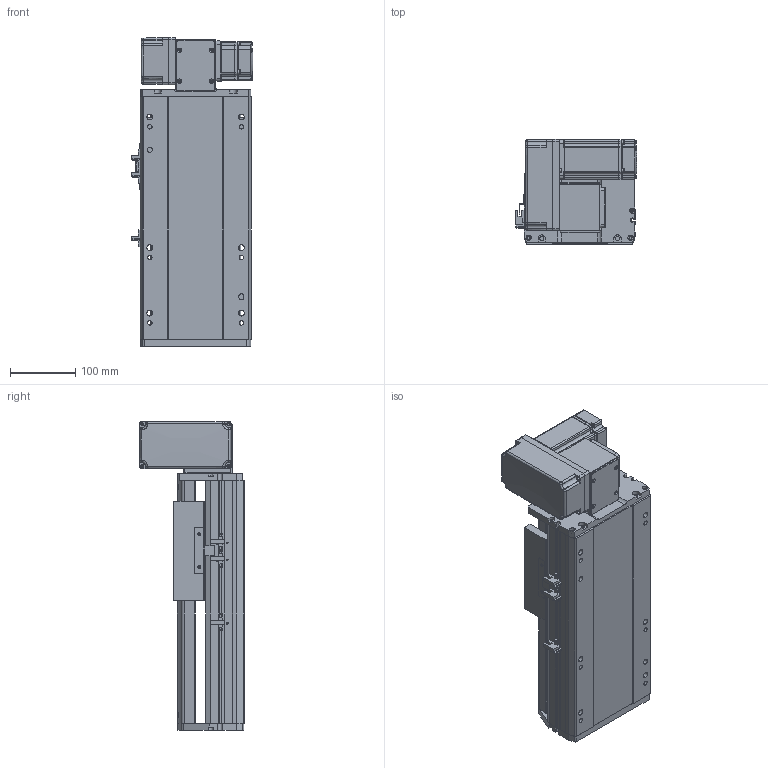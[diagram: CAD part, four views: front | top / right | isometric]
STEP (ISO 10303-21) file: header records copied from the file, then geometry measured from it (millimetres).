
FILE_DESCRIPTION (( 'STEP AP214' ), '1' );
FILE_NAME ('RTB17S-XX-100-LW-M40-C4.STEP', '2025-12-11T06:53:50', ( '' ), ( '' ), 'SwSTEP 2.0', 'SolidWorks 2018', '' );
FILE_SCHEMA (( 'AUTOMOTIVE_DESIGN' ));
Length unit declared in the file: millimetre
Products named in the file (14): RTB17S-LW-々湍釱蚾饜-400W^RTB17S-XX-XX-LW-M40-C4; RTB14-L-018P^RTB17S-LW-々湍釱蚾饜-400W_RTB17S-XX-XX-LW-M40-C4; RTB14-L-017P^RTB17S-LW-々湍釱蚾饜-400W_RTB17S-XX-XX-LW-M40-C4; OMRON EE-SX672 传感器^RTB17S-XX-XX-LW-M40-C4; RTB14-L-008-M20--萇儂啣^RTB17S-LW-々湍釱蚾饜-400W_RTB17S-XX-XX-LW-M40-C4; 400W侜督萇儂^RTB17S-XX-XX-LW-M40-C4; RTB17S-L-014-T20--々湍釱^RTB17S-LW-々湍釱蚾饜-400W_RTB17S-XX-XX-LW-M40-C4; RTH13-BL-012覜茼え俋离^RTB17S-XX-XX-LW-M40-C4; RTB17S-L-007奻裔^RTB17S-XX-XX-LW-M40-C4; RTB17S-L-001耜醱啣^RTB17S-XX-XX-LW-M40-C4; RTB17S-XX-100-LW-M40-C4; RTB14-L-005P--轴承塑胶压盖^RTB17S-LW-皮带座装配-400W_RTB17S-XX-XX-LW-M40-C4; RTB17-R-011菁釱^RTB17S-XX-XX-LW-M40-C4; RTB17S-L-004佪裝蹟譫蟀諉釱^RTB17S-XX-XX-LW-M40-C4
Assembly tree (16 placements, depth 3):
  RTB17S-XX-100-LW-M40-C4
    RTB17-R-011菁釱^RTB17S-XX-XX-LW-M40-C4
    RTB17S-L-007奻裔^RTB17S-XX-XX-LW-M40-C4
    OMRON EE-SX672 传感器^RTB17S-XX-XX-LW-M40-C4  x3
    RTB17S-L-001耜醱啣^RTB17S-XX-XX-LW-M40-C4
    400W侜督萇儂^RTB17S-XX-XX-LW-M40-C4
    RTB17S-L-004佪裝蹟譫蟀諉釱^RTB17S-XX-XX-LW-M40-C4
    RTH13-BL-012覜茼え俋离^RTB17S-XX-XX-LW-M40-C4
    RTB17S-LW-々湍釱蚾饜-400W^RTB17S-XX-XX-LW-M40-C4
      RTB17S-L-014-T20--々湍釱^RTB17S-LW-々湍釱蚾饜-400W_RTB17S-XX-XX-LW-M40-C4
      RTB14-L-005P--轴承塑胶压盖^RTB17S-LW-皮带座装配-400W_RTB17S-XX-XX-LW-M40-C4
      RTB14-L-008-M20--萇儂啣^RTB17S-LW-々湍釱蚾饜-400W_RTB17S-XX-XX-LW-M40-C4
      RTB14-L-017P^RTB17S-LW-々湍釱蚾饜-400W_RTB17S-XX-XX-LW-M40-C4  x2
      RTB14-L-018P^RTB17S-LW-々湍釱蚾饜-400W_RTB17S-XX-XX-LW-M40-C4
Bounding box: 186 x 160.5 x 472.5 mm (x, y, z)
Volume: 5032331.6 mm3; surface area: 698601.9 mm2
Topology: 15 solids, 15 shells, 2141 faces, 5871 edges, 3825 vertices
Faces by surface type: plane 1060, cylinder 633, bspline 301, cone 139, torus 8
Entity records: 59561 total; most frequent: CARTESIAN_POINT 16476, ORIENTED_EDGE 8586, DIRECTION 8036, EDGE_CURVE 4293, VERTEX_POINT 2813, AXIS2_PLACEMENT_3D 2743, LINE 2550, VECTOR 2550
